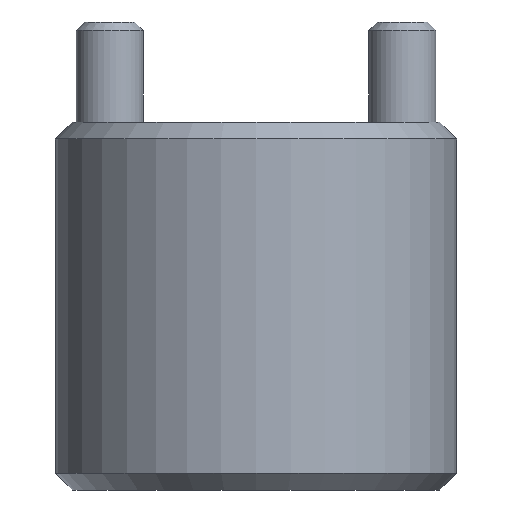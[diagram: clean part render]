
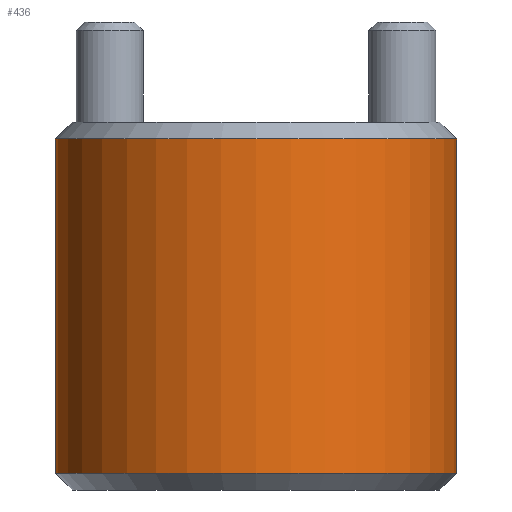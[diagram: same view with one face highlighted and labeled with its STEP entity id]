
A CAD part, left-side view. The second image highlights one B-rep face of the part: STEP entity #436.
In plain terms, the highlighted cylindrical face has radius 12 mm (diameter 24 mm), a partial arc.
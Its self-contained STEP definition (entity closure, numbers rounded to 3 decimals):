
#89=CARTESIAN_POINT('',(0.,0.,-1.));
#90=DIRECTION('',(0.,0.,1.));
#91=DIRECTION('',(0.,1.,0.));
#92=AXIS2_PLACEMENT_3D('',#89,#90,#91);
#94=DIRECTION('',(0.,0.,1.));
#95=VECTOR('',#94,20.);
#96=CARTESIAN_POINT('',(0.,-12.,
-21.));
#97=LINE('',#96,#95);
#98=CARTESIAN_POINT('',(0.,0.,-21.));
#99=DIRECTION('',(0.,0.,1.));
#100=DIRECTION('',(0.,1.,0.));
#101=AXIS2_PLACEMENT_3D('',#98,#99,#100);
#103=DIRECTION('',(0.,0.,1.));
#104=VECTOR('',#103,20.);
#105=CARTESIAN_POINT('',(0.,12.,
-21.));
#106=LINE('',#105,#104);
#305=CARTESIAN_POINT('',(0.,12.,-1.));
#306=CARTESIAN_POINT('',(0.,-12.,-1.));
#307=VERTEX_POINT('',#305);
#308=VERTEX_POINT('',#306);
#309=CARTESIAN_POINT('',(0.,12.,-21.));
#310=CARTESIAN_POINT('',(0.,-12.,-21.));
#311=VERTEX_POINT('',#309);
#312=VERTEX_POINT('',#310);
#424=CARTESIAN_POINT('',(0.,0.,1.1));
#425=DIRECTION('',(0.,0.,-1.));
#426=DIRECTION('',(0.,-1.,0.));
#427=AXIS2_PLACEMENT_3D('',#424,#425,#426);
#428=CYLINDRICAL_SURFACE('',#427,12.);
#429=ORIENTED_EDGE('',*,*,#383,.T.);
#430=ORIENTED_EDGE('',*,*,#413,.F.);
#432=ORIENTED_EDGE('',*,*,#431,.F.);
#433=ORIENTED_EDGE('',*,*,#409,.T.);
#434=EDGE_LOOP('',(#429,#430,#432,#433));
#435=FACE_OUTER_BOUND('',#434,.F.);
#436=ADVANCED_FACE('',(#435),#428,.T.);
#93=CIRCLE('',#92,12.);
#102=CIRCLE('',#101,12.);
#383=EDGE_CURVE('',#307,#308,#93,.T.);
#409=EDGE_CURVE('',#311,#307,#106,.T.);
#413=EDGE_CURVE('',#312,#308,#97,.T.);
#431=EDGE_CURVE('',#311,#312,#102,.T.);
